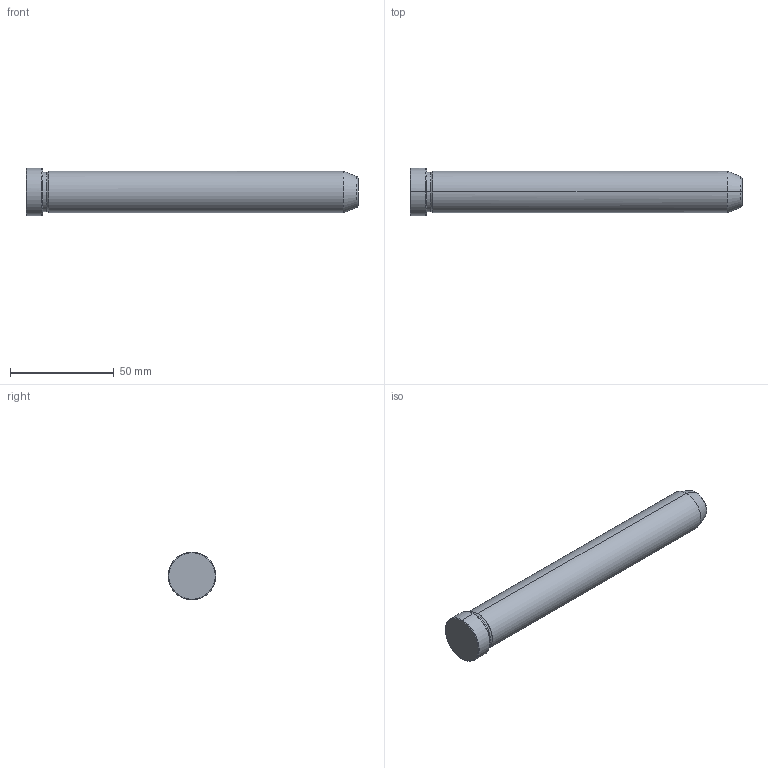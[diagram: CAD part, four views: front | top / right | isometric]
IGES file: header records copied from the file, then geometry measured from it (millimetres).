
Start section: START RECORD GO HERE.
Global section: file name: 549-20X160.igs; native system: DASSAULT SYSTEMES CATIA V5 R20 - www.3ds.com; preprocessor: CATIA Version 5 Release 20 ; author: Utente; organization: NB04-ASUS; date: 20211211.105201; units: millimetre
Bounding box: 160 x 23 x 23 mm (x, y, z)
Surface area: 10772.4 mm2 (no closed solid volume)
Topology: 0 solids, 0 shells, 19 faces, 112 edges, 112 vertices
Faces by surface type: revolution 16, plane 3
